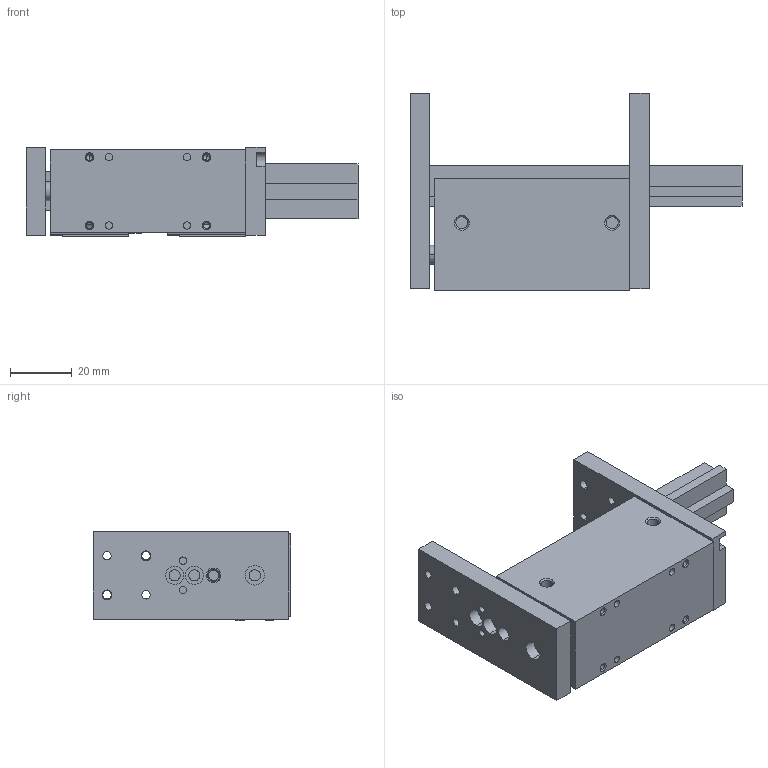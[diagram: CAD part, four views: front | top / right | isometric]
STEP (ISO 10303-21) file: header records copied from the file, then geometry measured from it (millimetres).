
FILE_DESCRIPTION (( 'STEP AP203' ), '1' );
FILE_NAME ('AGPS-2-3 CLOSED in MM.STEP', '2014-11-21T19:55:20', ( 'setup' ), ( '' ), 'SwSTEP 2.0', 'SolidWorks 2013', '' );
FILE_SCHEMA (( 'CONFIG_CONTROL_DESIGN' ));
Length unit declared in the file: millimetre
Products named in the file (8): AGPS-2-3 END PLATE A; AGPS-2-3 BODY; AGPS-2-3 CLOSED in MM; AGPS-2-3 CUSHION; AGPS-2-3 RAIL; AGPS-2-3 PROD; AGPS-2-3 SENSOR; AGPS-2-3 END PLATE B
Assembly tree (8 placements, depth 2):
  AGPS-2-3 CLOSED in MM
    AGPS-2-3 BODY
    AGPS-2-3 CUSHION
    AGPS-2-3 RAIL
    AGPS-2-3 PROD
    AGPS-2-3 SENSOR  x2
    AGPS-2-3 END PLATE B
    AGPS-2-3 END PLATE A
Bounding box: 107.95 x 64.16 x 29 mm (x, y, z)
Volume: 88012 mm3; surface area: 34880 mm2
Topology: 8 solids, 8 shells, 299 faces, 719 edges, 457 vertices
Faces by surface type: cylinder 137, plane 118, cone 44
Entity records: 8966 total; most frequent: DIRECTION 1478, CARTESIAN_POINT 1464, ORIENTED_EDGE 1288, EDGE_CURVE 644, AXIS2_PLACEMENT_3D 561, VERTEX_POINT 417, LINE 356, VECTOR 356
